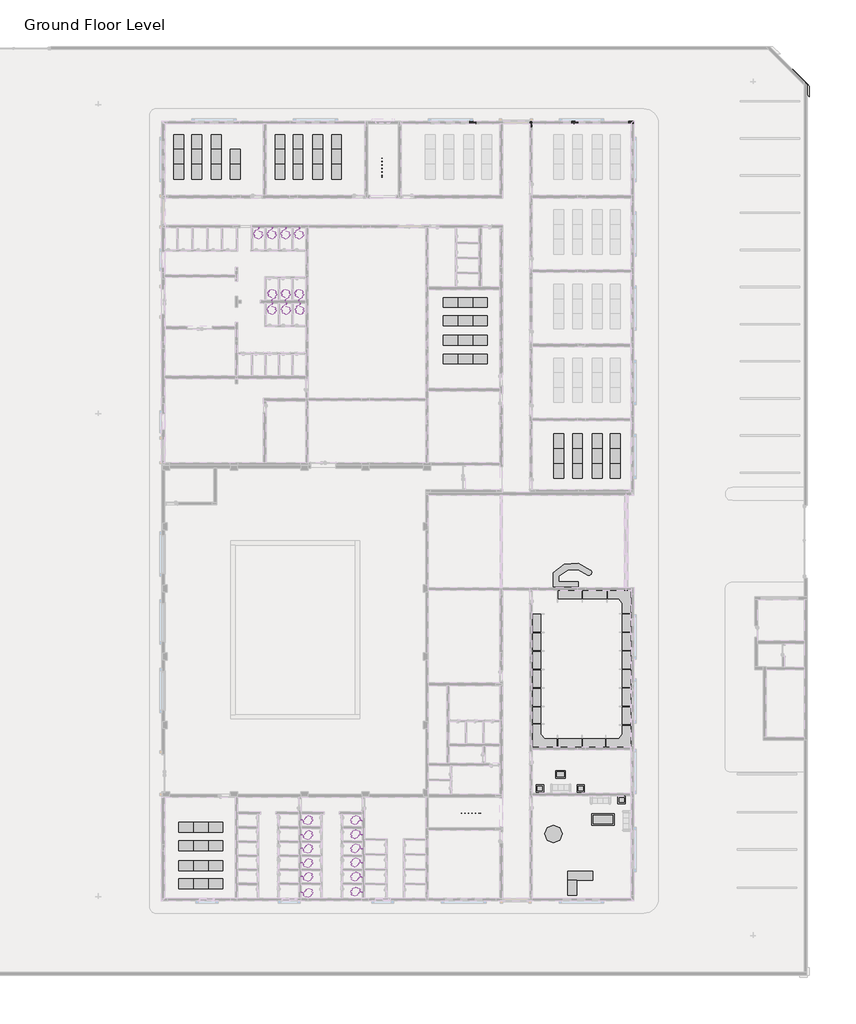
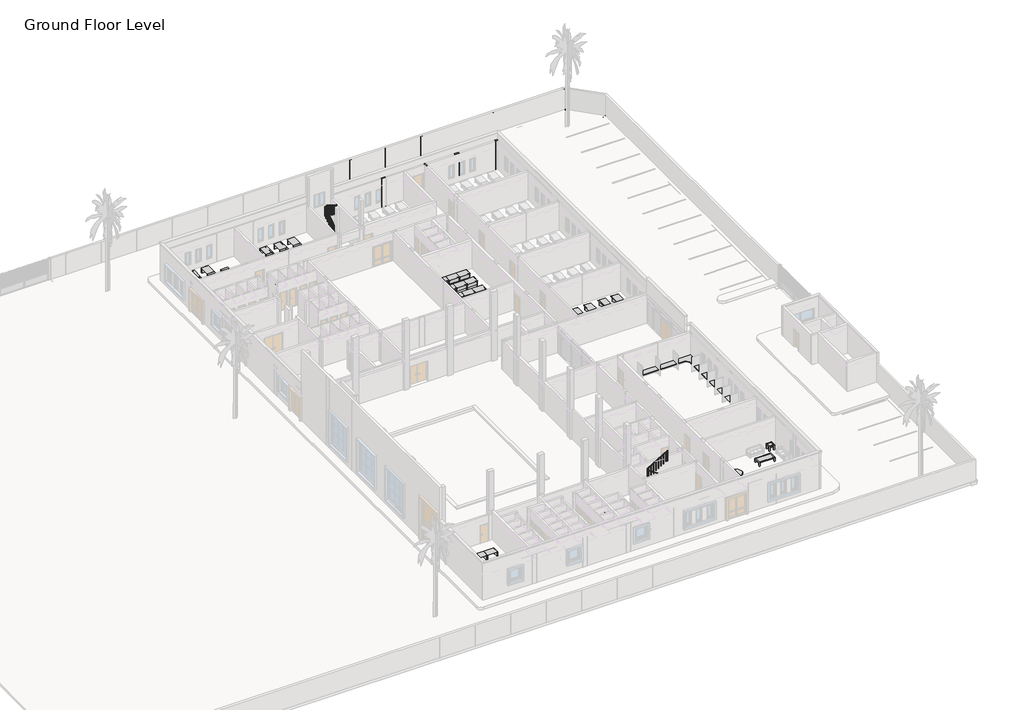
# One storey, part 21 of 23: 68 furniture elements, 22 flow terminals, 14 columns, 8 beams, 4 slabs, 2 railings, 1 footing.
"""IFC4 building model written with IfcOpenShell, lengths in millimetres."""

from ifc_helpers import new_model, si_unit, frame, origin, place, context, project, spatial, polyline, outline, extrude, faceted_brep, transform, mapped, element, save
from components import concrete_rectangular_c_9a02abf1, shower_shower_db6c2e8e, bar_cabinet_2643_bar_cabinet_2643_6f9020b6, desk_120cm_1200x800_96458f44, furniture_1_furniture_1_e9a6e4ac, m_desk_l_shape_2000_x_2000_cdca6658, table_coffee_2_600_x_600_x_600mm_3ebcfe62, table_coffee_2_800_x_700_x_600mm_039c7049, table_coffee_2_900_x_1800_x_450mm_279d784c, table_dining_w_chairs_1_900mm_diameter_3745d905, railing_1100mm_bf5e9941, railing_1100mm_0a1800b7

model = new_model("IFC4")

# Units and contexts
model_context = context("Model", 3, world=origin())
ifc_project = project(units=[si_unit("LENGTHUNIT", "METRE", prefix="MILLI")], contexts=[model_context])

# Site, building, storey
site = spatial("IfcSite", under=ifc_project)
building = spatial("IfcBuilding", under=site)
storey = spatial("IfcBuildingStorey", under=building, Name="Ground Floor Level", Elevation=900.0)

# Beams
placement = place(None, origin())
element("IfcBeam", 1, ObjectType="Concrete - Rectangular Beam : GB3", at=placement, inside=storey, context=model_context, shape_type="SweptSolid", body=[
    extrude(outline(polyline([(7852.7672395, 21445.2153534), (7852.7672395, 21645.2153534), (11052.7672395, 21645.2153534), (11052.7672395, 21445.2153534), (7852.7672395, 21445.2153534)])), frame((0.0, 0.0, 300.0), z_axis=(0.0, 0.0, 1.0), x_axis=(1.0, 0.0, 0.0)), (0.0, 0.0, 1.0), 300.0),
])
element("IfcBeam", 2, ObjectType="Concrete - Rectangular Beam : GB3", at=placement, inside=storey, context=model_context, shape_type="SweptSolid", body=[
    extrude(outline(polyline([(11552.7672395, 21445.2153534), (11552.7672395, 21645.2153534), (15652.7672395, 21645.2153534), (15652.7672395, 21445.2153534), (11552.7672395, 21445.2153534)])), frame((0.0, 0.0, 300.0), z_axis=(0.0, 0.0, 1.0), x_axis=(1.0, 0.0, 0.0)), (0.0, 0.0, 1.0), 300.0),
])
element("IfcBeam", 3, ObjectType="Concrete - Rectangular Beam : GB4", at=placement, inside=storey, context=model_context, shape_type="SweptSolid", body=[
    extrude(outline(polyline([(2802.7672395, 21645.2153534), (2802.7672395, 21445.2153534), (-2747.2327605, 21445.2153534), (-2747.2327605, 21645.2153534), (2802.7672395, 21645.2153534)])), frame((0.0, 0.0, 300.0), z_axis=(0.0, 0.0, 1.0), x_axis=(1.0, 0.0, 0.0)), (0.0, 0.0, 1.0), 300.0),
])
element("IfcBeam", 4, ObjectType="Concrete - Rectangular Beam : GB4", at=placement, inside=storey, context=model_context, shape_type="SweptSolid", body=[
    extrude(outline(polyline([(16052.7672395, 15645.2153534), (15852.7672395, 15645.2153534), (15852.7672395, 21445.2153534), (16052.7672395, 21445.2153534), (16052.7672395, 15645.2153534)])), frame((0.0, 0.0, 300.0), z_axis=(0.0, 0.0, 1.0), x_axis=(1.0, 0.0, 0.0)), (0.0, 0.0, 1.0), 300.0),
])
element("IfcBeam", 5, ObjectType="Concrete - Rectangular Beam : GB4", at=placement, inside=storey, context=model_context, shape_type="SweptSolid", body=[
    extrude(outline(polyline([(11542.223802, 15645.2153534), (11342.223802, 15645.2153534), (11342.223802, 21445.2153534), (11542.223802, 21445.2153534), (11542.223802, 15645.2153534)])), frame((0.0, 0.0, 300.0), z_axis=(0.0, 0.0, 1.0), x_axis=(1.0, 0.0, 0.0)), (0.0, 0.0, 1.0), 300.0),
])
element("IfcBeam", 6, ObjectType="Concrete - Rectangular Beam : GB4", at=placement, inside=storey, context=model_context, shape_type="SweptSolid", body=[
    extrude(outline(polyline([(7652.7672395, 21145.2153534), (7852.7672395, 21145.2153534), (7852.7672395, 15645.2153534), (7652.7672395, 15645.2153534), (7652.7672395, 21145.2153534)])), frame((0.0, 0.0, 300.0), z_axis=(0.0, 0.0, 1.0), x_axis=(1.0, 0.0, 0.0)), (0.0, 0.0, 1.0), 300.0),
])
element("IfcBeam", 7, ObjectType="Concrete - Rectangular Beam : GB4", at=placement, inside=storey, context=model_context, shape_type="SweptSolid", body=[
    extrude(outline(polyline([(5252.7672395, 21445.2153534), (5452.7672395, 21445.2153534), (5452.7672395, 15645.2153534), (5252.7672395, 15645.2153534), (5252.7672395, 21445.2153534)])), frame((0.0, 0.0, 300.0), z_axis=(0.0, 0.0, 1.0), x_axis=(1.0, 0.0, 0.0)), (0.0, 0.0, 1.0), 300.0),
])
element("IfcBeam", 8, ObjectType="Concrete - Rectangular Beam : GB5", at=placement, inside=storey, context=model_context, shape_type="Brep", body=[
    faceted_brep([(3302.7672395, 21445.2153534, 300.0), (5252.7672395, 21445.2153534, 300.0), (5452.7672395, 21445.2153534, 300.0), (7652.7672395, 21445.2153534, 300.0), (7652.7672395, 21445.2153534, 600.0), (5452.7672395, 21445.2153534, 600.0), (5252.7672395, 21445.2153534, 600.0), (3302.7672395, 21445.2153534, 600.0), (3302.7672395, 21645.2153534, 300.0), (7652.7672395, 21645.2153534, 300.0), (3302.7672395, 21645.2153534, 600.0), (7652.7672395, 21645.2153534, 600.0)], [[[0, 1, 2, 3, 4, 5, 6, 7]], [[0, 8, 9, 3, 2, 1]], [[9, 8, 10, 11]], [[8, 0, 7, 10]], [[3, 9, 11, 4]], [[7, 6, 5, 4, 11, 10]]]),
])

# Columns
element("IfcColumn", 9, ObjectType="Concrete Rectangular : C", at=placement, inside=storey, context=model_context, shape_type="SweptSolid", body=[
    extrude(outline(polyline([(2652.6555015, 27650.6767253), (2852.6555015, 27650.6767253), (2852.6555015, 27450.6767253), (2652.6555015, 27450.6767253), (2652.6555015, 27650.6767253)])), frame((0.0, 0.0, 600.0), z_axis=(0.0, 0.0, 1.0), x_axis=(1.0, 0.0, 0.0)), (0.0, 0.0, 1.0), 2450.0),
])
element("IfcColumn", 10, ObjectType="Concrete Rectangular : C", at=placement, inside=storey, context=model_context, shape_type="SweptSolid", body=[
    extrude(outline(polyline([(6652.6555015, 27650.6767253), (6852.6555015, 27650.6767253), (6852.6555015, 27450.6767253), (6652.6555015, 27450.6767253), (6652.6555015, 27650.6767253)])), frame((0.0, 0.0, 600.0), z_axis=(0.0, 0.0, 1.0), x_axis=(1.0, 0.0, 0.0)), (0.0, 0.0, 1.0), 2450.0),
])
element("IfcColumn", 11, ObjectType="Concrete Rectangular : C", at=placement, inside=storey, context=model_context, shape_type="SweptSolid", body=[
    extrude(outline(polyline([(10652.6555015, 27650.6767253), (10852.6555015, 27650.6767253), (10852.6555015, 27450.6767253), (10652.6555015, 27450.6767253), (10652.6555015, 27650.6767253)])), frame((0.0, 0.0, 600.0), z_axis=(0.0, 0.0, 1.0), x_axis=(1.0, 0.0, 0.0)), (0.0, 0.0, 1.0), 2450.0),
])
element("IfcColumn", 12, ObjectType="Concrete Rectangular : C", at=placement, inside=storey, context=model_context, shape_type="SweptSolid", body=[
    extrude(outline(polyline([(14652.6555015, 27650.6767253), (14852.6555015, 27650.6767253), (14852.6555015, 27450.6767253), (14652.6555015, 27450.6767253), (14652.6555015, 27650.6767253)])), frame((0.0, 0.0, 600.0), z_axis=(0.0, 0.0, 1.0), x_axis=(1.0, 0.0, 0.0)), (0.0, 0.0, 1.0), 2450.0),
])
element("IfcColumn", 13, ObjectType="Concrete Rectangular : C", at=placement, inside=storey, context=model_context, shape_type="SweptSolid", body=[
    extrude(outline(polyline([(18652.6555015, 27650.6767253), (18852.6555015, 27650.6767253), (18852.6555015, 27450.6767253), (18652.6555015, 27450.6767253), (18652.6555015, 27650.6767253)])), frame((0.0, 0.0, 600.0), z_axis=(0.0, 0.0, 1.0), x_axis=(1.0, 0.0, 0.0)), (0.0, 0.0, 1.0), 2450.0),
])
element("IfcColumn", 14, ObjectType="Concrete Rectangular : C", at=placement, inside=storey, context=model_context, shape_type="SweptSolid", body=[
    extrude(outline(polyline([(22652.6555015, 27650.6767253), (22852.6555015, 27650.6767253), (22852.6555015, 27450.6767253), (22652.6555015, 27450.6767253), (22652.6555015, 27650.6767253)])), frame((0.0, 0.0, 600.0), z_axis=(0.0, 0.0, 1.0), x_axis=(1.0, 0.0, 0.0)), (0.0, 0.0, 1.0), 2450.0),
])
element("IfcColumn", 15, ObjectType="Concrete Rectangular : C", at=placement, inside=storey, context=model_context, shape_type="SweptSolid", body=[
    extrude(outline(polyline([(26652.6555015, 27650.6767253), (26852.6555015, 27650.6767253), (26852.6555015, 27450.6767253), (26652.6555015, 27450.6767253), (26652.6555015, 27650.6767253)])), frame((0.0, 0.0, 600.0), z_axis=(0.0, 0.0, 1.0), x_axis=(1.0, 0.0, 0.0)), (0.0, 0.0, 1.0), 2450.0),
])
concrete_rectangular_c_shape = concrete_rectangular_c_9a02abf1(model_context)
element("IfcColumn", 16, ObjectType="Concrete Rectangular : C", at=placement, inside=storey, context=model_context, shape_type="MappedRepresentation", body=[
    mapped(concrete_rectangular_c_shape, transform((29943.9253387, 24439.4068881, 0.0), x_axis=(-1.0, 0.0, 0.0), y_axis=(0.0, -1.0, 0.0), z_axis=(0.0, 0.0, 1.0))),
])
element("IfcColumn", 17, ObjectType="Concrete Rectangular : C", at=placement, inside=storey, context=model_context, shape_type="MappedRepresentation", body=[
    mapped(concrete_rectangular_c_shape, transform((29943.9253387, 20439.4068881, 0.0), x_axis=(-1.0, 0.0, 0.0), y_axis=(0.0, -1.0, 0.0), z_axis=(0.0, 0.0, 1.0))),
])
element("IfcColumn", 18, ObjectType="Concrete Rectangular : C", at=placement, inside=storey, context=model_context, shape_type="MappedRepresentation", body=[
    mapped(concrete_rectangular_c_shape, transform((29943.9253387, 16439.4068881, 0.0), x_axis=(-1.0, 0.0, 0.0), y_axis=(0.0, -1.0, 0.0), z_axis=(0.0, 0.0, 1.0))),
])
element("IfcColumn", 19, ObjectType="Concrete Rectangular : C1", at=placement, inside=storey, context=model_context, shape_type="Brep", body=[
    faceted_brep([(15652.7672395, 21645.2153534, -300.0), (16052.7672395, 21645.2153534, -300.0), (16052.7672395, 21445.2153534, -300.0), (15652.7672395, 21445.2153534, -300.0), (15652.7672395, 21645.2153534, 4400.0), (16052.7672395, 21645.2153534, 4400.0), (16052.7672395, 21645.2153534, 900.0), (15652.7672395, 21645.2153534, 900.0), (16052.7672395, 21445.2153534, 4400.0), (16052.7672395, 21445.2153534, 900.0), (15652.7672395, 21445.2153534, 4400.0), (15652.7672395, 21445.2153534, 1000.0), (15652.7672395, 21445.2153534, 900.0)], [[[0, 1, 2, 3]], [[4, 5, 6, 1, 0, 7]], [[5, 8, 9, 2, 1, 6]], [[8, 10, 11, 12, 3, 2, 9]], [[10, 4, 7, 0, 3, 12, 11]], [[4, 10, 8, 5]]]),
])
element("IfcColumn", 20, ObjectType="Concrete Rectangular : C2", at=placement, inside=storey, context=model_context, shape_type="Brep", body=[
    faceted_brep([(3302.7672395, 21445.2153534, -300.0), (2802.7672395, 21445.2153534, -300.0), (2802.7672395, 21645.2153534, -300.0), (3302.7672395, 21645.2153534, -300.0), (3302.7672395, 21445.2153534, 4400.0), (2802.7672395, 21445.2153534, 4400.0), (2802.7672395, 21445.2153534, 1000.0), (2802.7672395, 21445.2153534, 900.0), (3302.7672395, 21445.2153534, 900.0), (3302.7672395, 21445.2153534, 1000.0), (2802.7672395, 21645.2153534, 4400.0), (2802.7672395, 21645.2153534, 900.0), (3302.7672395, 21645.2153534, 4400.0), (3302.7672395, 21645.2153534, 900.0)], [[[0, 1, 2, 3]], [[4, 5, 6, 7, 1, 0, 8, 9]], [[5, 10, 11, 2, 1, 7, 6]], [[10, 12, 13, 3, 2, 11]], [[12, 4, 9, 8, 0, 3, 13]], [[4, 12, 10, 5]]]),
])
element("IfcColumn", 21, ObjectType="Concrete Rectangular : C2", at=placement, inside=storey, context=model_context, shape_type="Brep", body=[
    faceted_brep([(7852.7672395, 21645.2153534, -300.0), (7852.7672395, 21145.2153534, -300.0), (7652.7672395, 21145.2153534, -300.0), (7652.7672395, 21645.2153534, -300.0), (7852.7672395, 21645.2153534, 4400.0), (7852.7672395, 21435.2153534, 4400.0), (7852.7672395, 21145.2153534, 4400.0), (7852.7672395, 21145.2153534, 1000.0), (7852.7672395, 21145.2153534, 900.0), (7852.7672395, 21645.2153534, 900.0), (7652.7672395, 21145.2153534, 4400.0), (7652.7672395, 21145.2153534, 1000.0), (7652.7672395, 21145.2153534, 900.0), (7652.7672395, 21435.2153534, 4400.0), (7652.7672395, 21645.2153534, 4400.0), (7652.7672395, 21645.2153534, 900.0)], [[[0, 1, 2, 3]], [[4, 5, 6, 7, 8, 1, 0, 9]], [[6, 10, 11, 12, 2, 1, 8, 7]], [[10, 13, 14, 15, 3, 2, 12, 11]], [[14, 4, 9, 0, 3, 15]], [[4, 14, 13, 10, 6, 5]]]),
])
element("IfcColumn", 22, ObjectType="Concrete Rectangular : C2", at=placement, inside=storey, context=model_context, shape_type="Brep", body=[
    faceted_brep([(11052.7672395, 21645.2153534, -300.0), (11552.7672395, 21645.2153534, -300.0), (11552.7672395, 21445.2153534, -300.0), (11052.7672395, 21445.2153534, -300.0), (11052.7672395, 21645.2153534, 4400.0), (11552.7672395, 21645.2153534, 4400.0), (11552.7672395, 21645.2153534, 900.0), (11052.7672395, 21645.2153534, 900.0), (11552.7672395, 21445.2153534, 4400.0), (11552.7672395, 21445.2153534, 1000.0), (11552.7672395, 21445.2153534, 900.0), (11052.7672395, 21445.2153534, 4400.0), (11052.7672395, 21445.2153534, 1000.0), (11052.7672395, 21445.2153534, 900.0)], [[[0, 1, 2, 3]], [[4, 5, 6, 1, 0, 7]], [[5, 8, 9, 10, 2, 1, 6]], [[8, 11, 12, 13, 3, 2, 10, 9]], [[11, 4, 7, 0, 3, 13, 12]], [[4, 11, 8, 5]]]),
])

# Flow terminals
shower_shower_shape = shower_shower_db6c2e8e(model_context)
element("IfcFlowTerminal", 23, ObjectType="Shower : Shower", at=placement, inside=storey, context=model_context, shape_type="MappedRepresentation", body=[
    mapped(shower_shower_shape, transform((-10283.9007605, -34799.6019973, 3200.0), x_axis=(-1.0, 0.0, 0.0), y_axis=(0.0, -1.0, 0.0), z_axis=(0.0, 0.0, 1.0))),
])
element("IfcFlowTerminal", 24, ObjectType="Shower : Shower", at=placement, inside=storey, context=model_context, shape_type="MappedRepresentation", body=[
    mapped(shower_shower_shape, transform((-10283.9007605, -35999.6019973, 3200.0), x_axis=(-1.0, 0.0, 0.0), y_axis=(0.0, -1.0, 0.0), z_axis=(0.0, 0.0, 1.0))),
])
element("IfcFlowTerminal", 25, ObjectType="Shower : Shower", at=placement, inside=storey, context=model_context, shape_type="MappedRepresentation", body=[
    mapped(shower_shower_shape, transform((-10283.9007605, -37099.6019973, 3200.0), x_axis=(-1.0, 0.0, 0.0), y_axis=(0.0, -1.0, 0.0), z_axis=(0.0, 0.0, 1.0))),
])
element("IfcFlowTerminal", 26, ObjectType="Shower : Shower", at=placement, inside=storey, context=model_context, shape_type="MappedRepresentation", body=[
    mapped(shower_shower_shape, transform((-10283.9007605, -38269.7846466, 3200.0), x_axis=(-1.0, 0.0, 0.0), y_axis=(0.0, -1.0, 0.0), z_axis=(0.0, 0.0, 1.0))),
])
element("IfcFlowTerminal", 27, ObjectType="Shower : Shower", at=placement, inside=storey, context=model_context, shape_type="MappedRepresentation", body=[
    mapped(shower_shower_shape, transform((-10283.9007605, -39369.7846466, 3200.0), x_axis=(-1.0, 0.0, 0.0), y_axis=(0.0, -1.0, 0.0), z_axis=(0.0, 0.0, 1.0))),
])
element("IfcFlowTerminal", 28, ObjectType="Shower : Shower", at=placement, inside=storey, context=model_context, shape_type="MappedRepresentation", body=[
    mapped(shower_shower_shape, transform((-10283.9007605, -40669.7846466, 3200.0), x_axis=(-1.0, 0.0, 0.0), y_axis=(0.0, -1.0, 0.0), z_axis=(0.0, 0.0, 1.0))),
])
element("IfcFlowTerminal", 29, ObjectType="Shower : Shower", at=placement, inside=storey, context=model_context, shape_type="MappedRepresentation", body=[
    mapped(shower_shower_shape, transform((-6390.5687605, -34864.6926466, 3200.0), x_axis=(1.0, 0.0, 0.0), y_axis=(0.0, 1.0, 0.0), z_axis=(0.0, 0.0, 1.0))),
])
element("IfcFlowTerminal", 30, ObjectType="Shower : Shower", at=placement, inside=storey, context=model_context, shape_type="MappedRepresentation", body=[
    mapped(shower_shower_shape, transform((-6390.5687605, -36012.7835466, 3200.0), x_axis=(1.0, 0.0, 0.0), y_axis=(0.0, 1.0, 0.0), z_axis=(0.0, 0.0, 1.0))),
])
element("IfcFlowTerminal", 31, ObjectType="Shower : Shower", at=placement, inside=storey, context=model_context, shape_type="MappedRepresentation", body=[
    mapped(shower_shower_shape, transform((-6390.5687605, -37152.7833366, 3200.0), x_axis=(1.0, 0.0, 0.0), y_axis=(0.0, 1.0, 0.0), z_axis=(0.0, 0.0, 1.0))),
])
element("IfcFlowTerminal", 32, ObjectType="Shower : Shower", at=placement, inside=storey, context=model_context, shape_type="MappedRepresentation", body=[
    mapped(shower_shower_shape, transform((-6390.5687605, -38292.7833266, 3200.0), x_axis=(1.0, 0.0, 0.0), y_axis=(0.0, 1.0, 0.0), z_axis=(0.0, 0.0, 1.0))),
])
element("IfcFlowTerminal", 33, ObjectType="Shower : Shower", at=placement, inside=storey, context=model_context, shape_type="MappedRepresentation", body=[
    mapped(shower_shower_shape, transform((-6390.5687605, -39432.7929166, 3200.0), x_axis=(1.0, 0.0, 0.0), y_axis=(0.0, 1.0, 0.0), z_axis=(0.0, 0.0, 1.0))),
])
element("IfcFlowTerminal", 34, ObjectType="Shower : Shower", at=placement, inside=storey, context=model_context, shape_type="MappedRepresentation", body=[
    mapped(shower_shower_shape, transform((-6390.5687605, -40654.7846466, 3200.0), x_axis=(1.0, 0.0, 0.0), y_axis=(0.0, 1.0, 0.0), z_axis=(0.0, 0.0, 1.0))),
])
element("IfcFlowTerminal", 35, ObjectType="Shower : Shower", at=placement, inside=storey, context=model_context, shape_type="MappedRepresentation", body=[
    mapped(shower_shower_shape, transform((-14247.2327605, 12535.2153534, 3200.0), x_axis=(0.0, 1.0, 0.0), y_axis=(-1.0, 0.0, 0.0), z_axis=(0.0, 0.0, 1.0))),
])
element("IfcFlowTerminal", 36, ObjectType="Shower : Shower", at=placement, inside=storey, context=model_context, shape_type="MappedRepresentation", body=[
    mapped(shower_shower_shape, transform((-13147.2327605, 12535.2153534, 3200.0), x_axis=(0.0, 1.0, 0.0), y_axis=(-1.0, 0.0, 0.0), z_axis=(0.0, 0.0, 1.0))),
])
element("IfcFlowTerminal", 37, ObjectType="Shower : Shower", at=placement, inside=storey, context=model_context, shape_type="MappedRepresentation", body=[
    mapped(shower_shower_shape, transform((-12047.2327605, 12535.2153534, 3200.0), x_axis=(0.0, 1.0, 0.0), y_axis=(-1.0, 0.0, 0.0), z_axis=(0.0, 0.0, 1.0))),
])
element("IfcFlowTerminal", 38, ObjectType="Shower : Shower", at=placement, inside=storey, context=model_context, shape_type="MappedRepresentation", body=[
    mapped(shower_shower_shape, transform((-10947.2327605, 12535.2153534, 3200.0), x_axis=(0.0, 1.0, 0.0), y_axis=(-1.0, 0.0, 0.0), z_axis=(0.0, 0.0, 1.0))),
])
element("IfcFlowTerminal", 39, ObjectType="Shower : Shower", at=placement, inside=storey, context=model_context, shape_type="MappedRepresentation", body=[
    mapped(shower_shower_shape, transform((-13187.2327605, 7645.2153534, 3200.0), x_axis=(0.0, -1.0, 0.0), y_axis=(1.0, 0.0, 0.0), z_axis=(0.0, 0.0, 1.0))),
])
element("IfcFlowTerminal", 40, ObjectType="Shower : Shower", at=placement, inside=storey, context=model_context, shape_type="MappedRepresentation", body=[
    mapped(shower_shower_shape, transform((-12097.2327605, 7645.2153534, 3200.0), x_axis=(0.0, -1.0000000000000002, 0.0), y_axis=(1.0000000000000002, 0.0, 0.0), z_axis=(0.0, 0.0, 1.0))),
])
element("IfcFlowTerminal", 41, ObjectType="Shower : Shower", at=placement, inside=storey, context=model_context, shape_type="MappedRepresentation", body=[
    mapped(shower_shower_shape, transform((-11007.2327605, 7645.2153534, 3200.0), x_axis=(0.0, -1.0000000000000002, 0.0), y_axis=(1.0000000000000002, 0.0, 0.0), z_axis=(0.0, 0.0, 1.0))),
])
element("IfcFlowTerminal", 42, ObjectType="Shower : Shower", at=placement, inside=storey, context=model_context, shape_type="MappedRepresentation", body=[
    mapped(shower_shower_shape, transform((-10887.2327605, 6425.2153534, 3200.0), x_axis=(0.0, 1.0000000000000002, 0.0), y_axis=(-1.0000000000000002, 0.0, 0.0), z_axis=(0.0, 0.0, 1.0))),
])
element("IfcFlowTerminal", 43, ObjectType="Shower : Shower", at=placement, inside=storey, context=model_context, shape_type="MappedRepresentation", body=[
    mapped(shower_shower_shape, transform((-12007.2327605, 6435.2153534, 3200.0), x_axis=(0.0, 1.0, 0.0), y_axis=(-1.0, 0.0, 0.0), z_axis=(0.0, 0.0, 1.0))),
])
element("IfcFlowTerminal", 44, ObjectType="Shower : Shower", at=placement, inside=storey, context=model_context, shape_type="MappedRepresentation", body=[
    mapped(shower_shower_shape, transform((-13147.2327605, 6435.2153534, 3200.0), x_axis=(0.0, 1.0, 0.0), y_axis=(-1.0, 0.0, 0.0), z_axis=(0.0, 0.0, 1.0))),
])

# Footing
element("IfcFooting", 45, ObjectType="Bearing Footing - 600 x 300", at=placement, inside=storey, context=model_context, shape_type="Brep", body=[
    faceted_brep([(30242.7672395, 23620.8293516, 600.0), (30242.7672395, 24469.357489, 600.0), (30062.7672395, 24649.357489, 600.0), (30062.7672395, 23800.8293516, 600.0), (27036.9093751, 27675.2153534, 600.0), (26788.3812377, 27075.2153534, 600.0), (29462.7672395, 24400.8293516, 600.0), (27636.9093751, 27075.2153534, 600.0), (30242.7672395, 24469.357489, 300.0), (30062.7672395, 24649.357489, 300.0), (27636.9093751, 27075.2153534, 300.0), (27036.9093751, 27675.2153534, 300.0), (30242.7672395, 23620.8293516, 300.0), (30062.7672395, 23800.8293516, 300.0), (26788.3812377, 27075.2153534, 300.0), (29462.7672395, 24400.8293516, 300.0)], [[[0, 1, 2, 3]], [[4, 5, 6, 2, 7]], [[1, 8, 9, 10, 11, 4, 7, 2]], [[8, 12, 13, 9]], [[14, 11, 10, 9, 15]], [[12, 0, 3, 13]], [[5, 14, 15, 6]], [[1, 0, 12, 8]], [[5, 4, 11, 14]], [[2, 9, 13, 3]], [[9, 2, 6, 15]]]),
])

# Furniture
bar_cabinet_2643_bar_cabinet_2643_shape = bar_cabinet_2643_bar_cabinet_2643_6f9020b6(model_context)
element("IfcFurniture", 46, ObjectType="Bar_Cabinet_2643 : Bar_Cabinet_2643", at=placement, inside=storey, context=model_context, shape_type="MappedRepresentation", body=[
    mapped(bar_cabinet_2643_bar_cabinet_2643_shape, transform((10473.066913, -15584.7846466, 1000.0), x_axis=(1.0, 0.0, 0.0), y_axis=(0.0, 1.0, 0.0), z_axis=(0.0, 0.0, 1.0))),
])
desk_120cm_1200x800_shape = desk_120cm_1200x800_96458f44(model_context)
element("IfcFurniture", 47, ObjectType="Desk -120cm : 1200x800", at=placement, inside=storey, context=model_context, shape_type="MappedRepresentation", body=[
    mapped(desk_120cm_1200x800_shape, transform((-16549.5512159, 18163.9275564, 900.0), x_axis=(1.0, 0.0, 0.0), y_axis=(0.0, 1.0, 0.0), z_axis=(0.0, 0.0, 1.0))),
])
element("IfcFurniture", 48, ObjectType="Desk -120cm : 1200x800", at=placement, inside=storey, context=model_context, shape_type="MappedRepresentation", body=[
    mapped(desk_120cm_1200x800_shape, transform((-16549.5512159, 16968.9275564, 900.0), x_axis=(1.0, 0.0, 0.0), y_axis=(0.0, 1.0, 0.0), z_axis=(0.0, 0.0, 1.0))),
])
element("IfcFurniture", 49, ObjectType="Desk -120cm : 1200x800", at=placement, inside=storey, context=model_context, shape_type="MappedRepresentation", body=[
    mapped(desk_120cm_1200x800_shape, transform((-18057.2327605, 19358.9275564, 900.0), x_axis=(1.0, 0.0, 0.0), y_axis=(0.0, 1.0, 0.0), z_axis=(0.0, 0.0, 1.0))),
])
element("IfcFurniture", 50, ObjectType="Desk -120cm : 1200x800", at=placement, inside=storey, context=model_context, shape_type="MappedRepresentation", body=[
    mapped(desk_120cm_1200x800_shape, transform((-18057.2327605, 18163.9275564, 900.0), x_axis=(1.0, 0.0, 0.0), y_axis=(0.0, 1.0, 0.0), z_axis=(0.0, 0.0, 1.0))),
])
element("IfcFurniture", 51, ObjectType="Desk -120cm : 1200x800", at=placement, inside=storey, context=model_context, shape_type="MappedRepresentation", body=[
    mapped(desk_120cm_1200x800_shape, transform((-18057.2327605, 16968.9275564, 900.0), x_axis=(1.0, 0.0, 0.0), y_axis=(0.0, 1.0, 0.0), z_axis=(0.0, 0.0, 1.0))),
])
element("IfcFurniture", 52, ObjectType="Desk -120cm : 1200x800", at=placement, inside=storey, context=model_context, shape_type="MappedRepresentation", body=[
    mapped(desk_120cm_1200x800_shape, transform((-19657.2327605, 19358.9275564, 900.0), x_axis=(1.0, 0.0, 0.0), y_axis=(0.0, 1.0, 0.0), z_axis=(0.0, 0.0, 1.0))),
])
element("IfcFurniture", 53, ObjectType="Desk -120cm : 1200x800", at=placement, inside=storey, context=model_context, shape_type="MappedRepresentation", body=[
    mapped(desk_120cm_1200x800_shape, transform((-19657.2327605, 18163.9275564, 900.0), x_axis=(1.0, 0.0, 0.0), y_axis=(0.0, 1.0, 0.0), z_axis=(0.0, 0.0, 1.0))),
])
element("IfcFurniture", 54, ObjectType="Desk -120cm : 1200x800", at=placement, inside=storey, context=model_context, shape_type="MappedRepresentation", body=[
    mapped(desk_120cm_1200x800_shape, transform((-19657.2327605, 16968.9275564, 900.0), x_axis=(1.0, 0.0, 0.0), y_axis=(0.0, 1.0, 0.0), z_axis=(0.0, 0.0, 1.0))),
])
element("IfcFurniture", 55, ObjectType="Desk -120cm : 1200x800", at=placement, inside=storey, context=model_context, shape_type="MappedRepresentation", body=[
    mapped(desk_120cm_1200x800_shape, transform((-21113.8455574, 19358.9275564, 900.0), x_axis=(1.0, 0.0, 0.0), y_axis=(0.0, 1.0, 0.0), z_axis=(0.0, 0.0, 1.0))),
])
element("IfcFurniture", 56, ObjectType="Desk -120cm : 1200x800", at=placement, inside=storey, context=model_context, shape_type="MappedRepresentation", body=[
    mapped(desk_120cm_1200x800_shape, transform((-21113.8455574, 18163.9275564, 900.0), x_axis=(1.0, 0.0, 0.0), y_axis=(0.0, 1.0, 0.0), z_axis=(0.0, 0.0, 1.0))),
])
element("IfcFurniture", 57, ObjectType="Desk -120cm : 1200x800", at=placement, inside=storey, context=model_context, shape_type="MappedRepresentation", body=[
    mapped(desk_120cm_1200x800_shape, transform((-21113.8455574, 16968.9275564, 900.0), x_axis=(1.0, 0.0, 0.0), y_axis=(0.0, 1.0, 0.0), z_axis=(0.0, 0.0, 1.0))),
])
element("IfcFurniture", 58, ObjectType="Desk -120cm : 1200x800", at=placement, inside=storey, context=model_context, shape_type="MappedRepresentation", body=[
    mapped(desk_120cm_1200x800_shape, transform((-8359.5512159, 19358.9275564, 900.0), x_axis=(1.0, 0.0, 0.0), y_axis=(0.0, 1.0, 0.0), z_axis=(0.0, 0.0, 1.0))),
])
element("IfcFurniture", 59, ObjectType="Desk -120cm : 1200x800", at=placement, inside=storey, context=model_context, shape_type="MappedRepresentation", body=[
    mapped(desk_120cm_1200x800_shape, transform((-8359.5512159, 18163.9275564, 900.0), x_axis=(1.0, 0.0, 0.0), y_axis=(0.0, 1.0, 0.0), z_axis=(0.0, 0.0, 1.0))),
])
element("IfcFurniture", 60, ObjectType="Desk -120cm : 1200x800", at=placement, inside=storey, context=model_context, shape_type="MappedRepresentation", body=[
    mapped(desk_120cm_1200x800_shape, transform((-8359.5512159, 16968.9275564, 900.0), x_axis=(1.0, 0.0, 0.0), y_axis=(0.0, 1.0, 0.0), z_axis=(0.0, 0.0, 1.0))),
])
element("IfcFurniture", 61, ObjectType="Desk -120cm : 1200x800", at=placement, inside=storey, context=model_context, shape_type="MappedRepresentation", body=[
    mapped(desk_120cm_1200x800_shape, transform((-9867.2327605, 19358.9275564, 900.0), x_axis=(1.0, 0.0, 0.0), y_axis=(0.0, 1.0, 0.0), z_axis=(0.0, 0.0, 1.0))),
])
element("IfcFurniture", 62, ObjectType="Desk -120cm : 1200x800", at=placement, inside=storey, context=model_context, shape_type="MappedRepresentation", body=[
    mapped(desk_120cm_1200x800_shape, transform((-9867.2327605, 18163.9275564, 900.0), x_axis=(1.0, 0.0, 0.0), y_axis=(0.0, 1.0, 0.0), z_axis=(0.0, 0.0, 1.0))),
])
element("IfcFurniture", 63, ObjectType="Desk -120cm : 1200x800", at=placement, inside=storey, context=model_context, shape_type="MappedRepresentation", body=[
    mapped(desk_120cm_1200x800_shape, transform((-9867.2327605, 16968.9275564, 900.0), x_axis=(1.0, 0.0, 0.0), y_axis=(0.0, 1.0, 0.0), z_axis=(0.0, 0.0, 1.0))),
])
element("IfcFurniture", 64, ObjectType="Desk -120cm : 1200x800", at=placement, inside=storey, context=model_context, shape_type="MappedRepresentation", body=[
    mapped(desk_120cm_1200x800_shape, transform((-11467.2327605, 19358.9275564, 900.0), x_axis=(1.0, 0.0, 0.0), y_axis=(0.0, 1.0, 0.0), z_axis=(0.0, 0.0, 1.0))),
])
element("IfcFurniture", 65, ObjectType="Desk -120cm : 1200x800", at=placement, inside=storey, context=model_context, shape_type="MappedRepresentation", body=[
    mapped(desk_120cm_1200x800_shape, transform((-11467.2327605, 18163.9275564, 900.0), x_axis=(1.0, 0.0, 0.0), y_axis=(0.0, 1.0, 0.0), z_axis=(0.0, 0.0, 1.0))),
])
element("IfcFurniture", 66, ObjectType="Desk -120cm : 1200x800", at=placement, inside=storey, context=model_context, shape_type="MappedRepresentation", body=[
    mapped(desk_120cm_1200x800_shape, transform((-11467.2327605, 16968.9275564, 900.0), x_axis=(1.0, 0.0, 0.0), y_axis=(0.0, 1.0, 0.0), z_axis=(0.0, 0.0, 1.0))),
])
element("IfcFurniture", 67, ObjectType="Desk -120cm : 1200x800", at=placement, inside=storey, context=model_context, shape_type="MappedRepresentation", body=[
    mapped(desk_120cm_1200x800_shape, transform((-12923.8455574, 19358.9275564, 900.0), x_axis=(1.0, 0.0, 0.0), y_axis=(0.0, 1.0, 0.0), z_axis=(0.0, 0.0, 1.0))),
])
element("IfcFurniture", 68, ObjectType="Desk -120cm : 1200x800", at=placement, inside=storey, context=model_context, shape_type="MappedRepresentation", body=[
    mapped(desk_120cm_1200x800_shape, transform((-12923.8455574, 18163.9275564, 900.0), x_axis=(1.0, 0.0, 0.0), y_axis=(0.0, 1.0, 0.0), z_axis=(0.0, 0.0, 1.0))),
])
element("IfcFurniture", 69, ObjectType="Desk -120cm : 1200x800", at=placement, inside=storey, context=model_context, shape_type="MappedRepresentation", body=[
    mapped(desk_120cm_1200x800_shape, transform((-12923.8455574, 16968.9275564, 900.0), x_axis=(1.0, 0.0, 0.0), y_axis=(0.0, 1.0, 0.0), z_axis=(0.0, 0.0, 1.0))),
])
element("IfcFurniture", 70, ObjectType="Desk -120cm : 1200x800", at=placement, inside=storey, context=model_context, shape_type="MappedRepresentation", body=[
    mapped(desk_120cm_1200x800_shape, transform((10410.0766935, -6016.7625054, 900.0), x_axis=(-1.0, 0.0, 0.0), y_axis=(0.0, -1.0, 0.0), z_axis=(0.0, 0.0, 1.0))),
])
element("IfcFurniture", 71, ObjectType="Desk -120cm : 1200x800", at=placement, inside=storey, context=model_context, shape_type="MappedRepresentation", body=[
    mapped(desk_120cm_1200x800_shape, transform((10410.0766935, -4821.7625054, 900.0), x_axis=(-1.0, 0.0, 0.0), y_axis=(0.0, -1.0, 0.0), z_axis=(0.0, 0.0, 1.0))),
])
element("IfcFurniture", 72, ObjectType="Desk -120cm : 1200x800", at=placement, inside=storey, context=model_context, shape_type="MappedRepresentation", body=[
    mapped(desk_120cm_1200x800_shape, transform((10410.0766935, -3626.7625054, 900.0), x_axis=(-1.0, 0.0, 0.0), y_axis=(0.0, -1.0, 0.0), z_axis=(0.0, 0.0, 1.0))),
])
element("IfcFurniture", 73, ObjectType="Desk -120cm : 1200x800", at=placement, inside=storey, context=model_context, shape_type="MappedRepresentation", body=[
    mapped(desk_120cm_1200x800_shape, transform((11917.7582381, -6016.7625054, 900.0), x_axis=(-1.0, 0.0, 0.0), y_axis=(0.0, -1.0, 0.0), z_axis=(0.0, 0.0, 1.0))),
])
element("IfcFurniture", 74, ObjectType="Desk -120cm : 1200x800", at=placement, inside=storey, context=model_context, shape_type="MappedRepresentation", body=[
    mapped(desk_120cm_1200x800_shape, transform((11917.7582381, -4821.7625054, 900.0), x_axis=(-1.0, 0.0, 0.0), y_axis=(0.0, -1.0, 0.0), z_axis=(0.0, 0.0, 1.0))),
])
element("IfcFurniture", 75, ObjectType="Desk -120cm : 1200x800", at=placement, inside=storey, context=model_context, shape_type="MappedRepresentation", body=[
    mapped(desk_120cm_1200x800_shape, transform((11917.7582381, -3626.7625054, 900.0), x_axis=(-1.0, 0.0, 0.0), y_axis=(0.0, -1.0, 0.0), z_axis=(0.0, 0.0, 1.0))),
])
element("IfcFurniture", 76, ObjectType="Desk -120cm : 1200x800", at=placement, inside=storey, context=model_context, shape_type="MappedRepresentation", body=[
    mapped(desk_120cm_1200x800_shape, transform((13517.7582381, -6016.7625054, 900.0), x_axis=(-1.0, 0.0, 0.0), y_axis=(0.0, -1.0, 0.0), z_axis=(0.0, 0.0, 1.0))),
])
element("IfcFurniture", 77, ObjectType="Desk -120cm : 1200x800", at=placement, inside=storey, context=model_context, shape_type="MappedRepresentation", body=[
    mapped(desk_120cm_1200x800_shape, transform((13517.7582381, -4821.7625054, 900.0), x_axis=(-1.0, 0.0, 0.0), y_axis=(0.0, -1.0, 0.0), z_axis=(0.0, 0.0, 1.0))),
])
element("IfcFurniture", 78, ObjectType="Desk -120cm : 1200x800", at=placement, inside=storey, context=model_context, shape_type="MappedRepresentation", body=[
    mapped(desk_120cm_1200x800_shape, transform((13517.7582381, -3626.7625054, 900.0), x_axis=(-1.0, 0.0, 0.0), y_axis=(0.0, -1.0, 0.0), z_axis=(0.0, 0.0, 1.0))),
])
element("IfcFurniture", 79, ObjectType="Desk -120cm : 1200x800", at=placement, inside=storey, context=model_context, shape_type="MappedRepresentation", body=[
    mapped(desk_120cm_1200x800_shape, transform((14974.3710349, -6016.7625054, 900.0), x_axis=(-1.0, 0.0, 0.0), y_axis=(0.0, -1.0, 0.0), z_axis=(0.0, 0.0, 1.0))),
])
element("IfcFurniture", 80, ObjectType="Desk -120cm : 1200x800", at=placement, inside=storey, context=model_context, shape_type="MappedRepresentation", body=[
    mapped(desk_120cm_1200x800_shape, transform((14974.3710349, -4821.7625054, 900.0), x_axis=(-1.0, 0.0, 0.0), y_axis=(0.0, -1.0, 0.0), z_axis=(0.0, 0.0, 1.0))),
])
element("IfcFurniture", 81, ObjectType="Desk -120cm : 1200x800", at=placement, inside=storey, context=model_context, shape_type="MappedRepresentation", body=[
    mapped(desk_120cm_1200x800_shape, transform((14974.3710349, -3626.7625054, 900.0), x_axis=(-1.0, 0.0, 0.0), y_axis=(0.0, -1.0, 0.0), z_axis=(0.0, 0.0, 1.0))),
])
element("IfcFurniture", 82, ObjectType="Desk -120cm : 1200x800", at=placement, inside=storey, context=model_context, shape_type="MappedRepresentation", body=[
    mapped(desk_120cm_1200x800_shape, transform((3046.0604712, 2825.2153534, 900.0), x_axis=(0.0, -1.0, 0.0), y_axis=(1.0, 0.0, 0.0), z_axis=(0.0, 0.0, 1.0))),
])
element("IfcFurniture", 83, ObjectType="Desk -120cm : 1200x800", at=placement, inside=storey, context=model_context, shape_type="MappedRepresentation", body=[
    mapped(desk_120cm_1200x800_shape, transform((1851.0604712, 2825.2153534, 900.0), x_axis=(0.0, -1.0, 0.0), y_axis=(1.0, 0.0, 0.0), z_axis=(0.0, 0.0, 1.0))),
])
element("IfcFurniture", 84, ObjectType="Desk -120cm : 1200x800", at=placement, inside=storey, context=model_context, shape_type="MappedRepresentation", body=[
    mapped(desk_120cm_1200x800_shape, transform((656.0604712, 2825.2153534, 900.0), x_axis=(0.0, -1.0, 0.0), y_axis=(1.0, 0.0, 0.0), z_axis=(0.0, 0.0, 1.0))),
])
element("IfcFurniture", 85, ObjectType="Desk -120cm : 1200x800", at=placement, inside=storey, context=model_context, shape_type="MappedRepresentation", body=[
    mapped(desk_120cm_1200x800_shape, transform((3046.0604712, 4332.896898, 900.0), x_axis=(0.0, -1.0, 0.0), y_axis=(1.0, 0.0, 0.0), z_axis=(0.0, 0.0, 1.0))),
])
element("IfcFurniture", 86, ObjectType="Desk -120cm : 1200x800", at=placement, inside=storey, context=model_context, shape_type="MappedRepresentation", body=[
    mapped(desk_120cm_1200x800_shape, transform((1851.0604712, 4332.896898, 900.0), x_axis=(0.0, -1.0, 0.0), y_axis=(1.0, 0.0, 0.0), z_axis=(0.0, 0.0, 1.0))),
])
element("IfcFurniture", 87, ObjectType="Desk -120cm : 1200x800", at=placement, inside=storey, context=model_context, shape_type="MappedRepresentation", body=[
    mapped(desk_120cm_1200x800_shape, transform((656.0604712, 4332.896898, 900.0), x_axis=(0.0, -1.0, 0.0), y_axis=(1.0, 0.0, 0.0), z_axis=(0.0, 0.0, 1.0))),
])
element("IfcFurniture", 88, ObjectType="Desk -120cm : 1200x800", at=placement, inside=storey, context=model_context, shape_type="MappedRepresentation", body=[
    mapped(desk_120cm_1200x800_shape, transform((3046.0604712, 5932.896898, 900.0), x_axis=(0.0, -1.0, 0.0), y_axis=(1.0, 0.0, 0.0), z_axis=(0.0, 0.0, 1.0))),
])
element("IfcFurniture", 89, ObjectType="Desk -120cm : 1200x800", at=placement, inside=storey, context=model_context, shape_type="MappedRepresentation", body=[
    mapped(desk_120cm_1200x800_shape, transform((1851.0604712, 5932.896898, 900.0), x_axis=(0.0, -1.0, 0.0), y_axis=(1.0, 0.0, 0.0), z_axis=(0.0, 0.0, 1.0))),
])
element("IfcFurniture", 90, ObjectType="Desk -120cm : 1200x800", at=placement, inside=storey, context=model_context, shape_type="MappedRepresentation", body=[
    mapped(desk_120cm_1200x800_shape, transform((656.0604712, 5932.896898, 900.0), x_axis=(0.0, -1.0, 0.0), y_axis=(1.0, 0.0, 0.0), z_axis=(0.0, 0.0, 1.0))),
])
element("IfcFurniture", 91, ObjectType="Desk -120cm : 1200x800", at=placement, inside=storey, context=model_context, shape_type="MappedRepresentation", body=[
    mapped(desk_120cm_1200x800_shape, transform((3046.0604712, 7389.5096949, 900.0), x_axis=(0.0, -1.0, 0.0), y_axis=(1.0, 0.0, 0.0), z_axis=(0.0, 0.0, 1.0))),
])
element("IfcFurniture", 92, ObjectType="Desk -120cm : 1200x800", at=placement, inside=storey, context=model_context, shape_type="MappedRepresentation", body=[
    mapped(desk_120cm_1200x800_shape, transform((1851.0604712, 7389.5096949, 900.0), x_axis=(0.0, -1.0, 0.0), y_axis=(1.0, 0.0, 0.0), z_axis=(0.0, 0.0, 1.0))),
])
element("IfcFurniture", 93, ObjectType="Desk -120cm : 1200x800", at=placement, inside=storey, context=model_context, shape_type="MappedRepresentation", body=[
    mapped(desk_120cm_1200x800_shape, transform((656.0604712, 7389.5096949, 900.0), x_axis=(0.0, -1.0, 0.0), y_axis=(1.0, 0.0, 0.0), z_axis=(0.0, 0.0, 1.0))),
])
element("IfcFurniture", 94, ObjectType="Desk -120cm : 1200x800", at=placement, inside=storey, context=model_context, shape_type="MappedRepresentation", body=[
    mapped(desk_120cm_1200x800_shape, transform((-19527.1220482, -35806.8035032, 900.0), x_axis=(0.0, 1.0, 0.0), y_axis=(-1.0, 0.0, 0.0), z_axis=(0.0, 0.0, 1.0))),
])
element("IfcFurniture", 95, ObjectType="Desk -120cm : 1200x800", at=placement, inside=storey, context=model_context, shape_type="MappedRepresentation", body=[
    mapped(desk_120cm_1200x800_shape, transform((-18332.1220482, -35806.8035032, 900.0), x_axis=(0.0, 1.0, 0.0), y_axis=(-1.0, 0.0, 0.0), z_axis=(0.0, 0.0, 1.0))),
])
element("IfcFurniture", 96, ObjectType="Desk -120cm : 1200x800", at=placement, inside=storey, context=model_context, shape_type="MappedRepresentation", body=[
    mapped(desk_120cm_1200x800_shape, transform((-17137.1220482, -35806.8035032, 900.0), x_axis=(0.0, 1.0, 0.0), y_axis=(-1.0, 0.0, 0.0), z_axis=(0.0, 0.0, 1.0))),
])
element("IfcFurniture", 97, ObjectType="Desk -120cm : 1200x800", at=placement, inside=storey, context=model_context, shape_type="MappedRepresentation", body=[
    mapped(desk_120cm_1200x800_shape, transform((-19527.1220482, -37314.4850478, 900.0), x_axis=(0.0, 1.0, 0.0), y_axis=(-1.0, 0.0, 0.0), z_axis=(0.0, 0.0, 1.0))),
])
element("IfcFurniture", 98, ObjectType="Desk -120cm : 1200x800", at=placement, inside=storey, context=model_context, shape_type="MappedRepresentation", body=[
    mapped(desk_120cm_1200x800_shape, transform((-18332.1220482, -37314.4850478, 900.0), x_axis=(0.0, 1.0, 0.0), y_axis=(-1.0, 0.0, 0.0), z_axis=(0.0, 0.0, 1.0))),
])
element("IfcFurniture", 99, ObjectType="Desk -120cm : 1200x800", at=placement, inside=storey, context=model_context, shape_type="MappedRepresentation", body=[
    mapped(desk_120cm_1200x800_shape, transform((-17137.1220482, -37314.4850478, 900.0), x_axis=(0.0, 1.0, 0.0), y_axis=(-1.0, 0.0, 0.0), z_axis=(0.0, 0.0, 1.0))),
])
element("IfcFurniture", 100, ObjectType="Desk -120cm : 1200x800", at=placement, inside=storey, context=model_context, shape_type="MappedRepresentation", body=[
    mapped(desk_120cm_1200x800_shape, transform((-19527.1220482, -38914.4850478, 900.0), x_axis=(0.0, 1.0, 0.0), y_axis=(-1.0, 0.0, 0.0), z_axis=(0.0, 0.0, 1.0))),
])
element("IfcFurniture", 101, ObjectType="Desk -120cm : 1200x800", at=placement, inside=storey, context=model_context, shape_type="MappedRepresentation", body=[
    mapped(desk_120cm_1200x800_shape, transform((-18332.1220482, -38914.4850478, 900.0), x_axis=(0.0, 1.0, 0.0), y_axis=(-1.0, 0.0, 0.0), z_axis=(0.0, 0.0, 1.0))),
])
element("IfcFurniture", 102, ObjectType="Desk -120cm : 1200x800", at=placement, inside=storey, context=model_context, shape_type="MappedRepresentation", body=[
    mapped(desk_120cm_1200x800_shape, transform((-17137.1220482, -38914.4850478, 900.0), x_axis=(0.0, 1.0, 0.0), y_axis=(-1.0, 0.0, 0.0), z_axis=(0.0, 0.0, 1.0))),
])
element("IfcFurniture", 103, ObjectType="Desk -120cm : 1200x800", at=placement, inside=storey, context=model_context, shape_type="MappedRepresentation", body=[
    mapped(desk_120cm_1200x800_shape, transform((-19527.1220482, -40371.0978446, 900.0), x_axis=(0.0, 1.0, 0.0), y_axis=(-1.0, 0.0, 0.0), z_axis=(0.0, 0.0, 1.0))),
])
element("IfcFurniture", 104, ObjectType="Desk -120cm : 1200x800", at=placement, inside=storey, context=model_context, shape_type="MappedRepresentation", body=[
    mapped(desk_120cm_1200x800_shape, transform((-18332.1220482, -40371.0978446, 900.0), x_axis=(0.0, 1.0, 0.0), y_axis=(-1.0, 0.0, 0.0), z_axis=(0.0, 0.0, 1.0))),
])
element("IfcFurniture", 105, ObjectType="Desk -120cm : 1200x800", at=placement, inside=storey, context=model_context, shape_type="MappedRepresentation", body=[
    mapped(desk_120cm_1200x800_shape, transform((-17137.1220482, -40371.0978446, 900.0), x_axis=(0.0, 1.0, 0.0), y_axis=(-1.0, 0.0, 0.0), z_axis=(0.0, 0.0, 1.0))),
])
furniture_1_furniture_1_shape = furniture_1_furniture_1_e9a6e4ac(model_context)
element("IfcFurniture", 106, ObjectType="Furniture 1 : Furniture 1", at=placement, inside=storey, context=model_context, shape_type="MappedRepresentation", body=[
    mapped(furniture_1_furniture_1_shape, transform((0.0, 0.0, 0.0), x_axis=(1.0, 0.0, 0.0), y_axis=(0.0, 1.0, 0.0), z_axis=(0.0, 0.0, 1.0))),
])
m_desk_l_shape_2000_x_2000_shape = m_desk_l_shape_2000_x_2000_cdca6658(model_context)
element("IfcFurniture", 107, ObjectType="M_Desk L Shape : 2000 x 2000", at=placement, inside=storey, context=model_context, shape_type="MappedRepresentation", body=[
    mapped(m_desk_l_shape_2000_x_2000_shape, transform((11452.7672395, -39694.7846466, 1000.0), x_axis=(-1.0000000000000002, 0.0, 0.0), y_axis=(0.0, -1.0000000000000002, 0.0), z_axis=(0.0, 0.0, 1.0))),
])
table_coffee_2_600_x_600_x_600mm_shape = table_coffee_2_600_x_600_x_600mm_3ebcfe62(model_context)
element("IfcFurniture", 108, ObjectType="Table - Coffee (2) : 600 x 600 x 600mm", at=placement, inside=storey, context=model_context, shape_type="MappedRepresentation", body=[
    mapped(table_coffee_2_600_x_600_x_600mm_shape, transform((15065.190402, -33301.4038096, 1000.0), x_axis=(1.0, 0.0, 0.0), y_axis=(0.0, 1.0, 0.0), z_axis=(0.0, 0.0, 1.0))),
])
element("IfcFurniture", 109, ObjectType="Table - Coffee (2) : 600 x 600 x 600mm", at=placement, inside=storey, context=model_context, shape_type="MappedRepresentation", body=[
    mapped(table_coffee_2_600_x_600_x_600mm_shape, transform((8460.5639504, -32373.1840952, 1000.0), x_axis=(1.0, 0.0, 0.0), y_axis=(0.0, 1.0, 0.0), z_axis=(0.0, 0.0, 1.0))),
])
element("IfcFurniture", 110, ObjectType="Table - Coffee (2) : 600 x 600 x 600mm", at=placement, inside=storey, context=model_context, shape_type="MappedRepresentation", body=[
    mapped(table_coffee_2_600_x_600_x_600mm_shape, transform((11760.5639504, -32373.1840952, 1000.0), x_axis=(1.0, 0.0, 0.0), y_axis=(0.0, 1.0, 0.0), z_axis=(0.0, 0.0, 1.0))),
])
table_coffee_2_800_x_700_x_600mm_shape = table_coffee_2_800_x_700_x_600mm_039c7049(model_context)
element("IfcFurniture", 111, ObjectType="Table - Coffee (2) : 800 x 700 x 600mm", at=placement, inside=storey, context=model_context, shape_type="MappedRepresentation", body=[
    mapped(table_coffee_2_800_x_700_x_600mm_shape, transform((10235.7367063, -31149.0859113, 1000.0), x_axis=(0.0, 1.0, 0.0), y_axis=(-1.0, 0.0, 0.0), z_axis=(0.0, 0.0, 1.0))),
])
table_coffee_2_900_x_1800_x_450mm_shape = table_coffee_2_900_x_1800_x_450mm_279d784c(model_context)
element("IfcFurniture", 112, ObjectType="Table - Coffee (2) : 900 x 1800 x 450mm", at=placement, inside=storey, context=model_context, shape_type="MappedRepresentation", body=[
    mapped(table_coffee_2_900_x_1800_x_450mm_shape, transform((13551.4492135, -34875.1449981, 1000.0), x_axis=(1.0, 0.0, 0.0), y_axis=(0.0, 1.0, 0.0), z_axis=(0.0, 0.0, 1.0))),
])
table_dining_w_chairs_1_900mm_diameter_shape = table_dining_w_chairs_1_900mm_diameter_3745d905(model_context)
element("IfcFurniture", 113, ObjectType="Table - Dining w Chairs (1) : 900mm Diameter", at=placement, inside=storey, context=model_context, shape_type="MappedRepresentation", body=[
    mapped(table_dining_w_chairs_1_900mm_diameter_shape, transform((9469.0852723, -35759.9059581, 1000.0), x_axis=(1.0, 0.0, 0.0), y_axis=(0.0, 1.0, 0.0), z_axis=(0.0, 0.0, 1.0))),
])

# Railings
railing_1100mm_shape = railing_1100mm_bf5e9941(model_context)
element("IfcRailing", 114, ObjectType="1100mm", at=placement, inside=storey, context=model_context, shape_type="MappedRepresentation", body=[
    mapped(railing_1100mm_shape, transform((0.0, 0.0, 0.0), x_axis=(1.0, 0.0, 0.0), y_axis=(0.0, 1.0, 0.0), z_axis=(0.0, 0.0, 1.0))),
])
railing_1100mm_2_shape = railing_1100mm_0a1800b7(model_context)
element("IfcRailing", 115, ObjectType="1100mm", at=placement, inside=storey, context=model_context, shape_type="MappedRepresentation", body=[
    mapped(railing_1100mm_2_shape, transform((0.0, 0.0, 0.0), x_axis=(1.0, 0.0, 0.0), y_axis=(0.0, 1.0, 0.0), z_axis=(0.0, 0.0, 1.0))),
])

# Slabs
element("IfcSlab", 116, ObjectType="Footing-Rectangular : F1", at=placement, inside=storey, context=model_context, shape_type="SweptSolid", body=[
    extrude(outline(polyline([(15152.7672395, 22145.2153534), (16552.7672395, 22145.2153534), (16552.7672395, 20945.2153534), (15152.7672395, 20945.2153534), (15152.7672395, 22145.2153534)])), frame((0.0, 0.0, -800.0), z_axis=(0.0, 0.0, 1.0), x_axis=(1.0, 0.0, 0.0)), (0.0, 0.0, 1.0), 500.0),
])
element("IfcSlab", 117, ObjectType="Footing-Rectangular : F3", at=placement, inside=storey, context=model_context, shape_type="SweptSolid", body=[
    extrude(outline(polyline([(10452.7672395, 20795.2153534), (10452.7672395, 22295.2153534), (12152.7672395, 22295.2153534), (12152.7672395, 20795.2153534), (10452.7672395, 20795.2153534)])), frame((0.0, 0.0, -800.0), z_axis=(0.0, 0.0, 1.0), x_axis=(1.0, 0.0, 0.0)), (0.0, 0.0, 1.0), 500.0),
])
element("IfcSlab", 118, ObjectType="Footing-Rectangular : F3", at=placement, inside=storey, context=model_context, shape_type="SweptSolid", body=[
    extrude(outline(polyline([(7002.7672395, 22245.2153534), (8502.7672395, 22245.2153534), (8502.7672395, 20545.2153534), (7002.7672395, 20545.2153534), (7002.7672395, 22245.2153534)])), frame((0.0, 0.0, -800.0), z_axis=(0.0, 0.0, 1.0), x_axis=(1.0, 0.0, 0.0)), (0.0, 0.0, 1.0), 500.0),
])
element("IfcSlab", 119, ObjectType="Footing-Rectangular : F4", at=placement, inside=storey, context=model_context, shape_type="SweptSolid", body=[
    extrude(outline(polyline([(4052.7672395, 22395.2153534), (4052.7672395, 20695.2153534), (2052.7672395, 20695.2153534), (2052.7672395, 22395.2153534), (4052.7672395, 22395.2153534)])), frame((0.0, 0.0, -800.0), z_axis=(0.0, 0.0, 1.0), x_axis=(1.0, 0.0, 0.0)), (0.0, 0.0, 1.0), 500.0),
])

save(model, "model.ifc")
